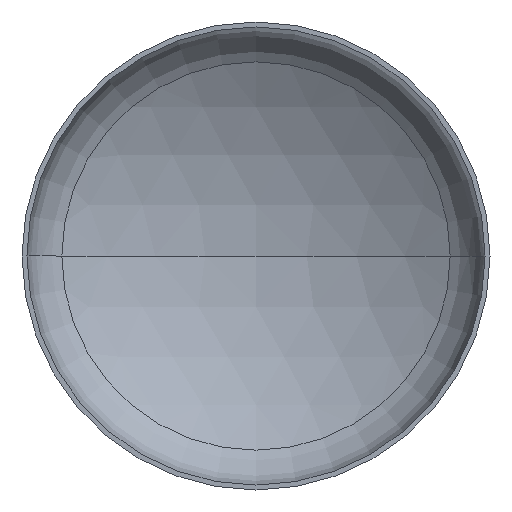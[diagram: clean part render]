
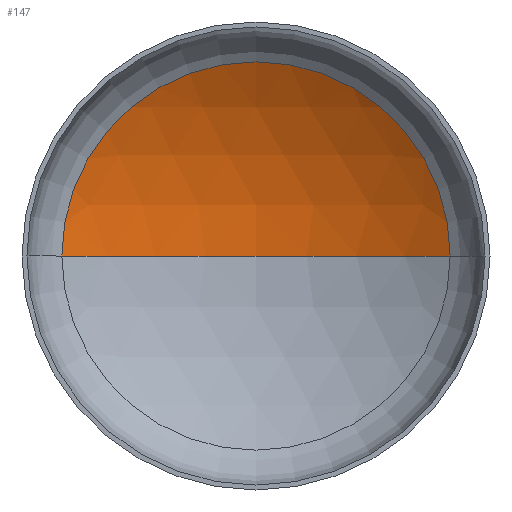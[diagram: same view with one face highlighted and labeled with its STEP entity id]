
A CAD part, front view. The second image highlights one B-rep face of the part: STEP entity #147.
In plain terms, the highlighted spherical face has radius 1600 mm.
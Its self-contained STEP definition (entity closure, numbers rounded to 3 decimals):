
#7 = AXIS2_PLACEMENT_3D ( 'NONE', #248, #51, #271 ) ;
#9 = AXIS2_PLACEMENT_3D ( 'NONE', #204, #380, #228 ) ;
#20 = AXIS2_PLACEMENT_3D ( 'NONE', #299, #158, #327 ) ;
#30 = VERTEX_POINT ( 'NONE', #381 ) ;
#51 = DIRECTION ( 'NONE',  ( 0., -1., 0. ) ) ;
#57 = VERTEX_POINT ( 'NONE', #322 ) ;
#72 = ORIENTED_EDGE ( 'NONE', *, *, #365, .T. ) ;
#74 = VERTEX_POINT ( 'NONE', #196 ) ;
#100 = AXIS2_PLACEMENT_3D ( 'NONE', #308, #269, #292 ) ;
#101 = ORIENTED_EDGE ( 'NONE', *, *, #344, .T. ) ;
#109 = EDGE_LOOP ( 'NONE', ( #295, #101, #72 ) ) ;
#147 = ADVANCED_FACE ( 'NONE', ( #155 ), #405, .F. ) ;
#155 = FACE_OUTER_BOUND ( 'NONE', #109, .T. ) ;
#158 = DIRECTION ( 'NONE',  ( 0., 0., -1. ) ) ;
#169 = CIRCLE ( 'NONE', #7, 829.767 ) ;
#196 = CARTESIAN_POINT ( 'NONE',  ( 829.767, 335.054, 0. ) ) ;
#204 = CARTESIAN_POINT ( 'NONE',  ( 0., -1032.968, 0. ) ) ;
#228 = DIRECTION ( 'NONE',  ( 1., 0., 0. ) ) ;
#248 = CARTESIAN_POINT ( 'NONE',  ( 0., 335.054, 0. ) ) ;
#269 = DIRECTION ( 'NONE',  ( 0., 0., -1. ) ) ;
#271 = DIRECTION ( 'NONE',  ( 1., 0., 0. ) ) ;
#291 = CIRCLE ( 'NONE', #20, 1600. ) ;
#292 = DIRECTION ( 'NONE',  ( -1., 0., 0. ) ) ;
#295 = ORIENTED_EDGE ( 'NONE', *, *, #345, .F. ) ;
#299 = CARTESIAN_POINT ( 'NONE',  ( 0., -1032.968, 0. ) ) ;
#308 = CARTESIAN_POINT ( 'NONE',  ( 0., -1032.968, 0. ) ) ;
#322 = CARTESIAN_POINT ( 'NONE',  ( -829.767, 335.054, 0. ) ) ;
#327 = DIRECTION ( 'NONE',  ( -1., 0., 0. ) ) ;
#344 = EDGE_CURVE ( 'NONE', #30, #74, #291, .T. ) ;
#345 = EDGE_CURVE ( 'NONE', #30, #57, #364, .T. ) ;
#364 = CIRCLE ( 'NONE', #9, 1600. ) ;
#365 = EDGE_CURVE ( 'NONE', #74, #57, #169, .T. ) ;
#380 = DIRECTION ( 'NONE',  ( 0., 0., 1. ) ) ;
#381 = CARTESIAN_POINT ( 'NONE',  ( 0., 567.032, 0. ) ) ;
#405 = SPHERICAL_SURFACE ( 'NONE', #100, 1600. ) ;
